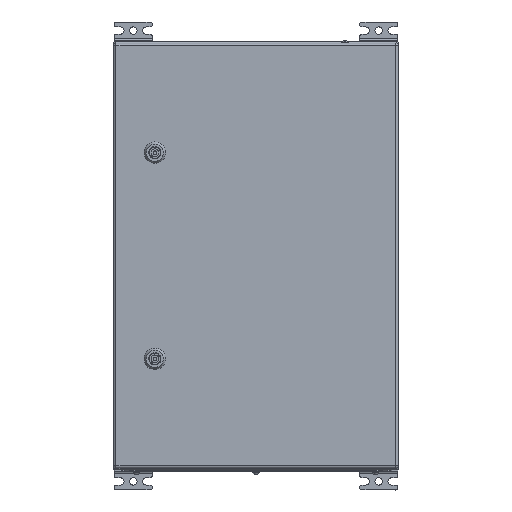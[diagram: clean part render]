
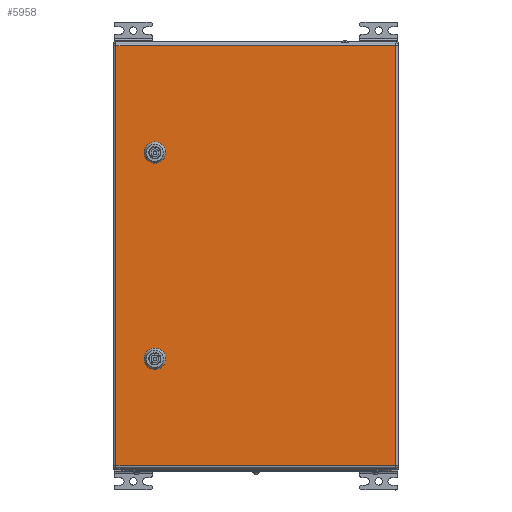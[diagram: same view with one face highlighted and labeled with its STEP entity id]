
A CAD part, top view. The second image highlights one B-rep face of the part: STEP entity #5958.
In plain terms, the highlighted planar face has unit normal (0, 0, 1).
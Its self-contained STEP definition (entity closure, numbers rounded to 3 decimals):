
#5958=ADVANCED_FACE('',(#14131,#14133,#14135),#14137,.T.);
#14131=FACE_BOUND('',#14132,.T.);
#14132=EDGE_LOOP('',(#36814,#36815,#36816,#36817));
#14133=FACE_BOUND('',#14134,.T.);
#14134=EDGE_LOOP('',(#36818,#36819,#36820,#36821,#36822,#36823,#36824,#36825));
#14135=FACE_BOUND('',#14136,.T.);
#14136=EDGE_LOOP('',(#36826,#36827,#36828,#36829,#36830,#36831,#36832,#36833));
#14137=PLANE('',#14138);
#14138=AXIS2_PLACEMENT_3D('',#14139,#14140,#14141);
#14139=CARTESIAN_POINT('',(0.,0.,1.5));
#14140=DIRECTION('',(0.,0.,1.));
#14141=DIRECTION('',(1.,0.,0.));
#36814=ORIENTED_EDGE('',*,*,#41217,.T.);
#36815=ORIENTED_EDGE('',*,*,#41218,.T.);
#36816=ORIENTED_EDGE('',*,*,#41219,.T.);
#36817=ORIENTED_EDGE('',*,*,#41220,.T.);
#36818=ORIENTED_EDGE('',*,*,#41185,.T.);
#36819=ORIENTED_EDGE('',*,*,#41199,.T.);
#36820=ORIENTED_EDGE('',*,*,#41197,.T.);
#36821=ORIENTED_EDGE('',*,*,#41195,.T.);
#36822=ORIENTED_EDGE('',*,*,#41193,.T.);
#36823=ORIENTED_EDGE('',*,*,#41191,.T.);
#36824=ORIENTED_EDGE('',*,*,#41189,.T.);
#36825=ORIENTED_EDGE('',*,*,#41187,.T.);
#36826=ORIENTED_EDGE('',*,*,#41169,.T.);
#36827=ORIENTED_EDGE('',*,*,#41183,.T.);
#36828=ORIENTED_EDGE('',*,*,#41181,.T.);
#36829=ORIENTED_EDGE('',*,*,#41179,.T.);
#36830=ORIENTED_EDGE('',*,*,#41177,.T.);
#36831=ORIENTED_EDGE('',*,*,#41175,.T.);
#36832=ORIENTED_EDGE('',*,*,#41173,.T.);
#36833=ORIENTED_EDGE('',*,*,#41171,.T.);
#41169=EDGE_CURVE('',#44767,#44765,#44768,.T.);
#41171=EDGE_CURVE('',#44770,#44767,#44771,.F.);
#41173=EDGE_CURVE('',#44773,#44770,#44774,.T.);
#41175=EDGE_CURVE('',#44776,#44773,#44777,.F.);
#41177=EDGE_CURVE('',#44779,#44776,#44780,.T.);
#41179=EDGE_CURVE('',#44782,#44779,#44783,.F.);
#41181=EDGE_CURVE('',#44785,#44782,#44786,.T.);
#41183=EDGE_CURVE('',#44765,#44785,#44788,.F.);
#41185=EDGE_CURVE('',#44791,#44789,#44792,.T.);
#41187=EDGE_CURVE('',#44794,#44791,#44795,.F.);
#41189=EDGE_CURVE('',#44797,#44794,#44798,.T.);
#41191=EDGE_CURVE('',#44800,#44797,#44801,.F.);
#41193=EDGE_CURVE('',#44803,#44800,#44804,.T.);
#41195=EDGE_CURVE('',#44806,#44803,#44807,.F.);
#41197=EDGE_CURVE('',#44809,#44806,#44810,.T.);
#41199=EDGE_CURVE('',#44789,#44809,#44812,.F.);
#41217=EDGE_CURVE('',#44839,#44840,#44841,.T.);
#41218=EDGE_CURVE('',#44840,#44842,#44843,.T.);
#41219=EDGE_CURVE('',#44842,#44844,#44845,.T.);
#41220=EDGE_CURVE('',#44844,#44839,#44846,.T.);
#44765=VERTEX_POINT('',#53800);
#44767=VERTEX_POINT('',#53804);
#44768=CIRCLE('',#53805,11.25);
#44770=VERTEX_POINT('',#53812);
#44771=LINE('',#53813,#53814);
#44773=VERTEX_POINT('',#53819);
#44774=CIRCLE('',#53820,11.25);
#44776=VERTEX_POINT('',#53827);
#44777=LINE('',#53828,#53829);
#44779=VERTEX_POINT('',#53834);
#44780=CIRCLE('',#53835,11.25);
#44782=VERTEX_POINT('',#53842);
#44783=LINE('',#53843,#53844);
#44785=VERTEX_POINT('',#53849);
#44786=CIRCLE('',#53850,11.25);
#44788=LINE('',#53857,#53858);
#44789=VERTEX_POINT('',#53860);
#44791=VERTEX_POINT('',#53864);
#44792=CIRCLE('',#53865,11.25);
#44794=VERTEX_POINT('',#53872);
#44795=LINE('',#53873,#53874);
#44797=VERTEX_POINT('',#53879);
#44798=CIRCLE('',#53880,11.25);
#44800=VERTEX_POINT('',#53887);
#44801=LINE('',#53888,#53889);
#44803=VERTEX_POINT('',#53894);
#44804=CIRCLE('',#53895,11.25);
#44806=VERTEX_POINT('',#53902);
#44807=LINE('',#53903,#53904);
#44809=VERTEX_POINT('',#53909);
#44810=CIRCLE('',#53910,11.25);
#44812=LINE('',#53917,#53918);
#44839=VERTEX_POINT('',#53981);
#44840=VERTEX_POINT('',#53982);
#44841=LINE('',#53983,#53984);
#44842=VERTEX_POINT('',#53986);
#44843=LINE('',#53987,#53988);
#44844=VERTEX_POINT('',#53990);
#44845=LINE('',#53991,#53992);
#44846=LINE('',#53994,#53995);
#53800=CARTESIAN_POINT('',(-154.955,-44.4,1.5));
#53804=CARTESIAN_POINT('',(-160.1,-49.545,1.5));
#53805=AXIS2_PLACEMENT_3D('',#53806,#53807,#53808);
#53806=CARTESIAN_POINT('',(-150.,-54.5,1.5));
#53807=DIRECTION('',(0.,0.,-1.));
#53808=DIRECTION('',(-0.898,0.44,0.));
#53812=CARTESIAN_POINT('',(-160.1,-59.455,1.5));
#53813=CARTESIAN_POINT('',(-160.1,-49.545,1.5));
#53814=VECTOR('',#53815,1.);
#53815=DIRECTION('',(0.,-1.,0.));
#53819=CARTESIAN_POINT('',(-154.955,-64.6,1.5));
#53820=AXIS2_PLACEMENT_3D('',#53821,#53822,#53823);
#53821=CARTESIAN_POINT('',(-150.,-54.5,1.5));
#53822=DIRECTION('',(0.,0.,-1.));
#53823=DIRECTION('',(-0.44,-0.898,0.));
#53827=CARTESIAN_POINT('',(-145.045,-64.6,1.5));
#53828=CARTESIAN_POINT('',(-154.955,-64.6,1.5));
#53829=VECTOR('',#53830,1.);
#53830=DIRECTION('',(1.,0.,0.));
#53834=CARTESIAN_POINT('',(-139.9,-59.455,1.5));
#53835=AXIS2_PLACEMENT_3D('',#53836,#53837,#53838);
#53836=CARTESIAN_POINT('',(-150.,-54.5,1.5));
#53837=DIRECTION('',(0.,0.,-1.));
#53838=DIRECTION('',(0.898,-0.44,0.));
#53842=CARTESIAN_POINT('',(-139.9,-49.545,1.5));
#53843=CARTESIAN_POINT('',(-139.9,-59.455,1.5));
#53844=VECTOR('',#53845,1.);
#53845=DIRECTION('',(0.,1.,0.));
#53849=CARTESIAN_POINT('',(-145.045,-44.4,1.5));
#53850=AXIS2_PLACEMENT_3D('',#53851,#53852,#53853);
#53851=CARTESIAN_POINT('',(-150.,-54.5,1.5));
#53852=DIRECTION('',(0.,0.,-1.));
#53853=DIRECTION('',(0.44,0.898,0.));
#53857=CARTESIAN_POINT('',(-145.045,-44.4,1.5));
#53858=VECTOR('',#53859,1.);
#53859=DIRECTION('',(-1.,0.,0.));
#53860=CARTESIAN_POINT('',(-443.955,-44.4,1.5));
#53864=CARTESIAN_POINT('',(-449.1,-49.545,1.5));
#53865=AXIS2_PLACEMENT_3D('',#53866,#53867,#53868);
#53866=CARTESIAN_POINT('',(-439.,-54.5,1.5));
#53867=DIRECTION('',(0.,0.,-1.));
#53868=DIRECTION('',(-0.898,0.44,0.));
#53872=CARTESIAN_POINT('',(-449.1,-59.455,1.5));
#53873=CARTESIAN_POINT('',(-449.1,-49.545,1.5));
#53874=VECTOR('',#53875,1.);
#53875=DIRECTION('',(0.,-1.,0.));
#53879=CARTESIAN_POINT('',(-443.955,-64.6,1.5));
#53880=AXIS2_PLACEMENT_3D('',#53881,#53882,#53883);
#53881=CARTESIAN_POINT('',(-439.,-54.5,1.5));
#53882=DIRECTION('',(0.,0.,-1.));
#53883=DIRECTION('',(-0.44,-0.898,0.));
#53887=CARTESIAN_POINT('',(-434.045,-64.6,1.5));
#53888=CARTESIAN_POINT('',(-443.955,-64.6,1.5));
#53889=VECTOR('',#53890,1.);
#53890=DIRECTION('',(1.,0.,0.));
#53894=CARTESIAN_POINT('',(-428.9,-59.455,1.5));
#53895=AXIS2_PLACEMENT_3D('',#53896,#53897,#53898);
#53896=CARTESIAN_POINT('',(-439.,-54.5,1.5));
#53897=DIRECTION('',(0.,0.,-1.));
#53898=DIRECTION('',(0.898,-0.44,0.));
#53902=CARTESIAN_POINT('',(-428.9,-49.545,1.5));
#53903=CARTESIAN_POINT('',(-428.9,-59.455,1.5));
#53904=VECTOR('',#53905,1.);
#53905=DIRECTION('',(0.,1.,0.));
#53909=CARTESIAN_POINT('',(-434.045,-44.4,1.5));
#53910=AXIS2_PLACEMENT_3D('',#53911,#53912,#53913);
#53911=CARTESIAN_POINT('',(-439.,-54.5,1.5));
#53912=DIRECTION('',(0.,0.,-1.));
#53913=DIRECTION('',(0.44,0.898,0.));
#53917=CARTESIAN_POINT('',(-434.045,-44.4,1.5));
#53918=VECTOR('',#53919,1.);
#53919=DIRECTION('',(-1.,0.,0.));
#53981=CARTESIAN_POINT('',(-589.,0.,1.5));
#53982=CARTESIAN_POINT('',(-589.,-392.,1.5));
#53983=CARTESIAN_POINT('',(-589.,0.,1.5));
#53984=VECTOR('',#53985,1.);
#53985=DIRECTION('',(0.,-1.,0.));
#53986=CARTESIAN_POINT('',(0.,-392.,1.5));
#53987=CARTESIAN_POINT('',(-589.,-392.,1.5));
#53988=VECTOR('',#53989,1.);
#53989=DIRECTION('',(1.,0.,0.));
#53990=CARTESIAN_POINT('',(0.,0.,1.5));
#53991=CARTESIAN_POINT('',(0.,-392.,1.5));
#53992=VECTOR('',#53993,1.);
#53993=DIRECTION('',(0.,1.,0.));
#53994=CARTESIAN_POINT('',(0.,0.,1.5));
#53995=VECTOR('',#53996,1.);
#53996=DIRECTION('',(-1.,0.,0.));
